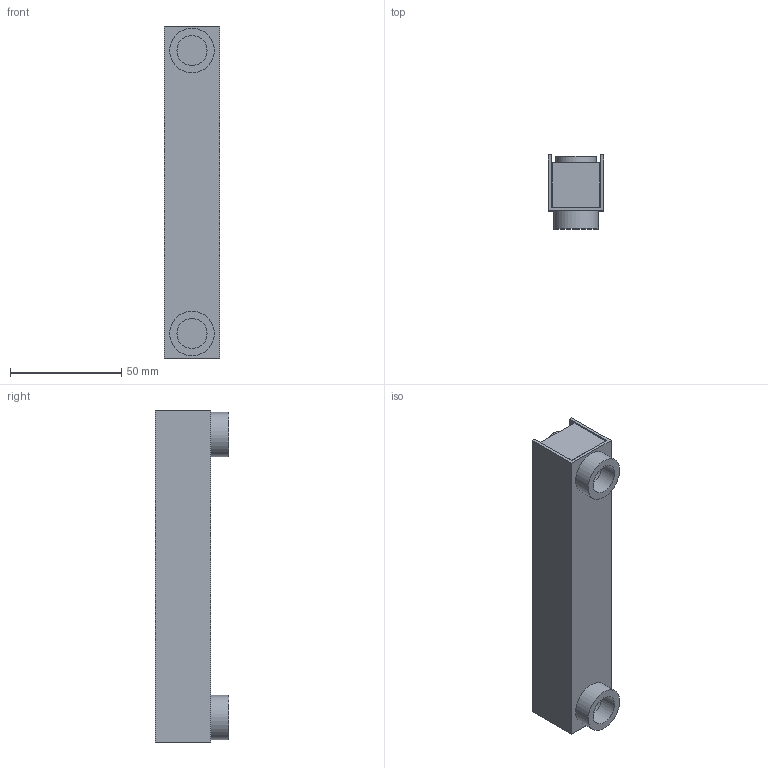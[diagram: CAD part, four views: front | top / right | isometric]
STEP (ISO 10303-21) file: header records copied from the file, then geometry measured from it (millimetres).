
FILE_DESCRIPTION(/* description */ ('MMF.1038'),/* implementation_level */ '2;1');
FILE_NAME(/* name */ 'C:\Vault Workingfolder\Engineering Workspace\Purchased Components\Parker\Level Gauge\S25201 Level Gauge 127mm.stp',/* time_stamp */ '2021-07-01T14:04:20+02:00',/* author */ ('ShoreTensionPatrickB'),/* organization */ (''),/* preprocessor_version */ 'ST-DEVELOPER v18.1',/* originating_system */ 'Autodesk Inventor 2021',/* authorisation */ '');
FILE_SCHEMA (('AUTOMOTIVE_DESIGN { 1 0 10303 214 3 1 1 }'));
Length unit declared in the file: millimetre
Products named in the file (1): S25201
Bounding box: 25 x 33 x 149 mm (x, y, z)
Volume: 59375.1 mm3; surface area: 38358.4 mm2
Topology: 8 solids, 8 shells, 63 faces, 133 edges, 88 vertices
Faces by surface type: plane 46, cylinder 11, cone 4, torus 2
Full cylindrical faces by diameter (mm): 13.5 x6, 18 x3, 20 x2
Entity records: 2002 total; most frequent: CARTESIAN_POINT 549, DIRECTION 283, ORIENTED_EDGE 266, EDGE_CURVE 133, AXIS2_PLACEMENT_3D 98, VERTEX_POINT 88, LINE 87, VECTOR 87
